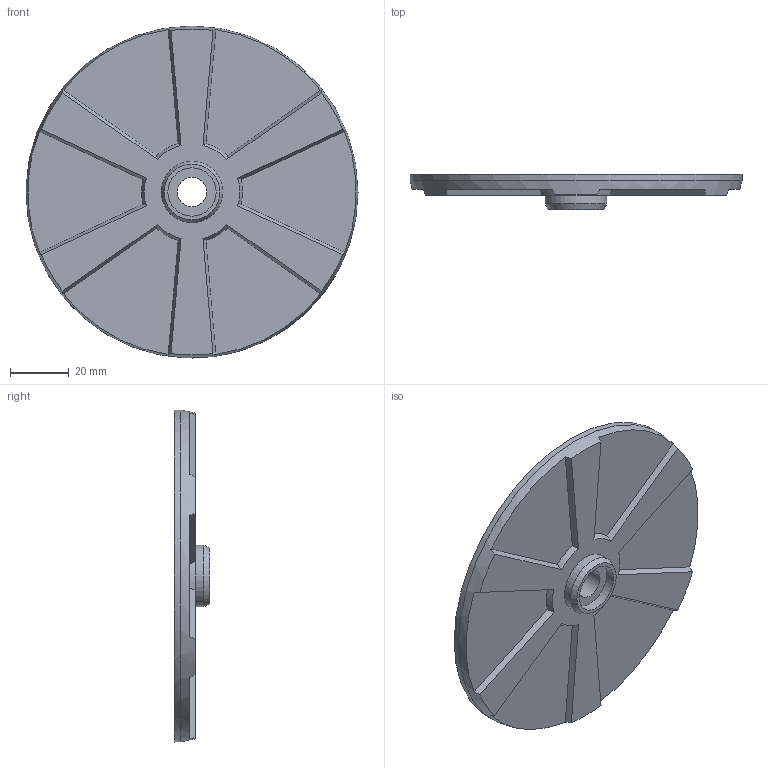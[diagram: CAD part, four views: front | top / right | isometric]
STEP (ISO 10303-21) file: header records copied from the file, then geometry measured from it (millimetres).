
FILE_DESCRIPTION( ( '' ), ' ' );
FILE_NAME( '/vol/tmp/translate-8674221067008984605/5ae2e379ed03c30fcd17c34f.step', '2018-04-27T08:46:51', ( '' ), ( '' ), ' ', ' ', ' ' );
FILE_SCHEMA( ( 'AUTOMOTIVE_DESIGN { 1 0 10303 214 1 1 1 1 }' ) );
Length unit declared in the file: metre
Products named in the file (1): cap
Bounding box: 113.5 x 12.1 x 113.5 mm (x, y, z)
Volume: 24686.7 mm3; surface area: 25422.1 mm2
Topology: 1 solids, 1 shells, 65 faces, 174 edges, 116 vertices
Faces by surface type: plane 43, cone 15, cylinder 7
Full cylindrical faces by diameter (mm): 10 x1, 14 x1, 16.5 x1, 17 x1, 21 x1, 109.5 x1, 113.5 x1
Entity records: 2544 total; most frequent: CARTESIAN_POINT 408, DIRECTION 354, ORIENTED_EDGE 318, EDGE_CURVE 159, AXIS2_PLACEMENT_3D 153, VERTEX_POINT 111, EDGE_LOOP 82, FACE_OUTER_BOUND 72
